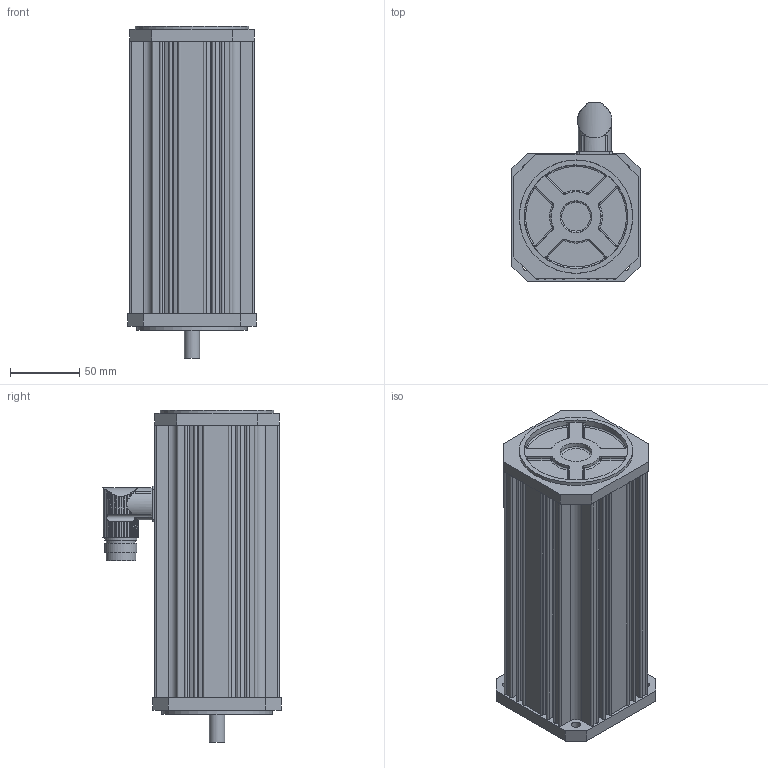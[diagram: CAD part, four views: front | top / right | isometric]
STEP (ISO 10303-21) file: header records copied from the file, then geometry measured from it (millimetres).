
FILE_DESCRIPTION(/* description */ (''),/* implementation_level */ '2;1');
FILE_NAME(/* name */ 'KSA348_MC',/* time_stamp */ '2009-02-26T13:19:33+01:00',/* author */ (''),/* organization */ (''),/* preprocessor_version */ 'ST-DEVELOPER v8',/* originating_system */ 'UNIGRAPHICS SOLUTIONS - UNIGRAPHICS 18.0',/* authorisation */ '');
FILE_SCHEMA (('AUTOMOTIVE_DESIGN { 1 2 10303 214 0 1 1 1 }'));
Length unit declared in the file: millimetre
Products named in the file (4): Winkelflanschdose_0; Lagersch3BS_0; Lagersch3AS_0; KSA324_MC_0
Assembly tree (3 placements, depth 2):
  KSA324_MC_0
    Lagersch3AS_0
    Lagersch3BS_0
    Winkelflanschdose_0
Bounding box: 92.6 x 128.79 x 240 mm (x, y, z)
Volume: 497811.8 mm3; surface area: 192887 mm2
Topology: 4 solids, 4 shells, 392 faces, 1074 edges, 708 vertices
Faces by surface type: cylinder 231, plane 108, bspline 32, torus 12, cone 9
Full cylindrical faces by diameter (mm): 6.5 x4, 11 x1, 12 x1, 16 x1, 20 x1, 21 x1, 21.5 x1, 23 x2, 45 x1, 73 x1, 80 x2, 81 x2
Entity records: 13966 total; most frequent: CARTESIAN_POINT 4040, ORIENTED_EDGE 2072, DIRECTION 1924, EDGE_CURVE 1036, AXIS2_PLACEMENT_3D 750, VERTEX_POINT 696, EDGE_LOOP 446, LINE 424
